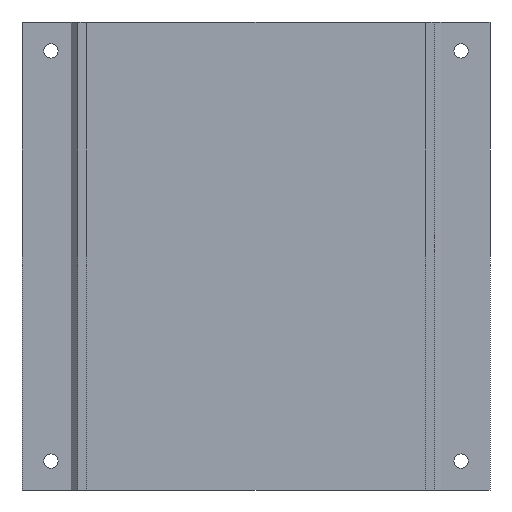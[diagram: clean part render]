
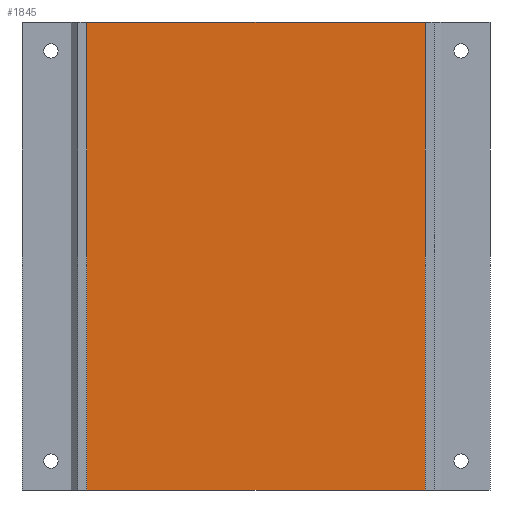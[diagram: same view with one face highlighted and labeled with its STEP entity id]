
A CAD part, front view. The second image highlights one B-rep face of the part: STEP entity #1845.
In plain terms, the highlighted planar face has unit normal (0, -1, 0).
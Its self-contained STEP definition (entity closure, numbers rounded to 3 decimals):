
#19 = ORIENTED_EDGE ( 'NONE', *, *, #1592, .T. ) ;
#56 = EDGE_LOOP ( 'NONE', ( #19, #1054 ) ) ;
#78 = ORIENTED_EDGE ( 'NONE', *, *, #224, .T. ) ;
#121 = EDGE_CURVE ( 'NONE', #126, #141, #1044, .T. ) ;
#123 = EDGE_CURVE ( 'NONE', #1867, #1811, #1060, .T. ) ;
#126 = VERTEX_POINT ( 'NONE', #1069 ) ;
#141 = VERTEX_POINT ( 'NONE', #1175 ) ;
#150 = ORIENTED_EDGE ( 'NONE', *, *, #121, .T. ) ;
#194 = EDGE_LOOP ( 'NONE', ( #150, #78 ) ) ;
#216 = ORIENTED_EDGE ( 'NONE', *, *, #286, .T. ) ;
#224 = EDGE_CURVE ( 'NONE', #141, #126, #1648, .T. ) ;
#241 = VERTEX_POINT ( 'NONE', #446 ) ;
#263 = VERTEX_POINT ( 'NONE', #511 ) ;
#270 = EDGE_CURVE ( 'NONE', #1073, #241, #524, .T. ) ;
#275 = VERTEX_POINT ( 'NONE', #529 ) ;
#286 = EDGE_CURVE ( 'NONE', #263, #634, #571, .T. ) ;
#288 = EDGE_CURVE ( 'NONE', #634, #263, #579, .T. ) ;
#309 = EDGE_CURVE ( 'NONE', #275, #1073, #678, .T. ) ;
#325 = ORIENTED_EDGE ( 'NONE', *, *, #270, .T. ) ;
#424 = ORIENTED_EDGE ( 'NONE', *, *, #288, .T. ) ;
#446 = CARTESIAN_POINT ( 'NONE',  ( 48.5, -12., -52.5 ) ) ;
#511 = CARTESIAN_POINT ( 'NONE',  ( 46., -12., -48.25 ) ) ;
#524 = LINE ( 'NONE', #525, #526 ) ;
#525 = CARTESIAN_POINT ( 'NONE',  ( -48.5, -12., -52.5 ) ) ;
#526 = VECTOR ( 'NONE', #527, 1000. ) ;
#527 = DIRECTION ( 'NONE',  ( 1., 0., 0. ) ) ;
#529 = CARTESIAN_POINT ( 'NONE',  ( -48.5, -12., 52.5 ) ) ;
#530 = LINE ( 'NONE', #531, #532 ) ;
#531 = CARTESIAN_POINT ( 'NONE',  ( 0., -12., 52.5 ) ) ;
#532 = VECTOR ( 'NONE', #533, 1000. ) ;
#533 = DIRECTION ( 'NONE',  ( 1., 0., 0. ) ) ;
#571 = CIRCLE ( 'NONE', #572, 2.25 ) ;
#572 = AXIS2_PLACEMENT_3D ( 'NONE', #573, #574, #575 ) ;
#573 = CARTESIAN_POINT ( 'NONE',  ( 46., -12., -46. ) ) ;
#574 = DIRECTION ( 'NONE',  ( 0., 1., 0. ) ) ;
#575 = DIRECTION ( 'NONE',  ( -1., 0., 0. ) ) ;
#579 = CIRCLE ( 'NONE', #580, 2.25 ) ;
#580 = AXIS2_PLACEMENT_3D ( 'NONE', #581, #582, #583 ) ;
#581 = CARTESIAN_POINT ( 'NONE',  ( 46., -12., -46. ) ) ;
#582 = DIRECTION ( 'NONE',  ( 0., 1., 0. ) ) ;
#583 = DIRECTION ( 'NONE',  ( -1., 0., 0. ) ) ;
#626 = CARTESIAN_POINT ( 'NONE',  ( -46., -12., 48.25 ) ) ;
#634 = VERTEX_POINT ( 'NONE', #948 ) ;
#678 = LINE ( 'NONE', #679, #680 ) ;
#679 = CARTESIAN_POINT ( 'NONE',  ( -48.5, -12., 52.5 ) ) ;
#680 = VECTOR ( 'NONE', #681, 1000. ) ;
#681 = DIRECTION ( 'NONE',  ( 0., 0., -1. ) ) ;
#838 = EDGE_LOOP ( 'NONE', ( #325, #1925, #1823, #1767 ) ) ;
#930 = FACE_BOUND ( 'NONE', #1828, .T. ) ;
#931 = FACE_BOUND ( 'NONE', #940, .T. ) ;
#932 = FACE_BOUND ( 'NONE', #194, .T. ) ;
#933 = FACE_BOUND ( 'NONE', #56, .T. ) ;
#934 = FACE_OUTER_BOUND ( 'NONE', #838, .T. ) ;
#935 = PLANE ( 'NONE',  #936 ) ;
#936 = AXIS2_PLACEMENT_3D ( 'NONE', #937, #941, #942 ) ;
#937 = CARTESIAN_POINT ( 'NONE',  ( -48.5, -12., 52.5 ) ) ;
#940 = EDGE_LOOP ( 'NONE', ( #424, #216 ) ) ;
#941 = DIRECTION ( 'NONE',  ( 0., 1., 0. ) ) ;
#942 = DIRECTION ( 'NONE',  ( -1., 0., 0. ) ) ;
#948 = CARTESIAN_POINT ( 'NONE',  ( 46., -12., -43.75 ) ) ;
#1044 = CIRCLE ( 'NONE', #1045, 2.25 ) ;
#1045 = AXIS2_PLACEMENT_3D ( 'NONE', #1046, #1047, #1048 ) ;
#1046 = CARTESIAN_POINT ( 'NONE',  ( 46., -12., 46. ) ) ;
#1047 = DIRECTION ( 'NONE',  ( 0., 1., 0. ) ) ;
#1048 = DIRECTION ( 'NONE',  ( -1., 0., 0. ) ) ;
#1054 = ORIENTED_EDGE ( 'NONE', *, *, #123, .T. ) ;
#1060 = CIRCLE ( 'NONE', #1061, 2.25 ) ;
#1061 = AXIS2_PLACEMENT_3D ( 'NONE', #1062, #1063, #1064 ) ;
#1062 = CARTESIAN_POINT ( 'NONE',  ( -46., -12., 46. ) ) ;
#1063 = DIRECTION ( 'NONE',  ( 0., 1., 0. ) ) ;
#1064 = DIRECTION ( 'NONE',  ( -1., 0., 0. ) ) ;
#1069 = CARTESIAN_POINT ( 'NONE',  ( 46., -12., 48.25 ) ) ;
#1073 = VERTEX_POINT ( 'NONE', #1158 ) ;
#1079 = CARTESIAN_POINT ( 'NONE',  ( -46., -12., 43.75 ) ) ;
#1133 = ORIENTED_EDGE ( 'NONE', *, *, #1920, .T. ) ;
#1139 = CARTESIAN_POINT ( 'NONE',  ( 48.5, -12., 52.5 ) ) ;
#1141 = CARTESIAN_POINT ( 'NONE',  ( -46., -12., -43.75 ) ) ;
#1158 = CARTESIAN_POINT ( 'NONE',  ( -48.5, -12., -52.5 ) ) ;
#1175 = CARTESIAN_POINT ( 'NONE',  ( 46., -12., 43.75 ) ) ;
#1260 = LINE ( 'NONE', #1261, #1262 ) ;
#1261 = CARTESIAN_POINT ( 'NONE',  ( 48.5, -12., 52.5 ) ) ;
#1262 = VECTOR ( 'NONE', #1263, 1000. ) ;
#1263 = DIRECTION ( 'NONE',  ( 0., 0., -1. ) ) ;
#1298 = CARTESIAN_POINT ( 'NONE',  ( -46., -12., -48.25 ) ) ;
#1441 = CIRCLE ( 'NONE', #1442, 2.25 ) ;
#1442 = AXIS2_PLACEMENT_3D ( 'NONE', #1443, #1444, #1445 ) ;
#1443 = CARTESIAN_POINT ( 'NONE',  ( -46., -12., -46. ) ) ;
#1444 = DIRECTION ( 'NONE',  ( 0., 1., 0. ) ) ;
#1445 = DIRECTION ( 'NONE',  ( -1., 0., 0. ) ) ;
#1466 = CIRCLE ( 'NONE', #1467, 2.25 ) ;
#1467 = AXIS2_PLACEMENT_3D ( 'NONE', #1468, #1470, #1471 ) ;
#1468 = CARTESIAN_POINT ( 'NONE',  ( -46., -12., 46. ) ) ;
#1470 = DIRECTION ( 'NONE',  ( 0., 1., 0. ) ) ;
#1471 = DIRECTION ( 'NONE',  ( -1., 0., 0. ) ) ;
#1547 = CIRCLE ( 'NONE', #1548, 2.25 ) ;
#1548 = AXIS2_PLACEMENT_3D ( 'NONE', #1549, #1550, #1551 ) ;
#1549 = CARTESIAN_POINT ( 'NONE',  ( -46., -12., -46. ) ) ;
#1550 = DIRECTION ( 'NONE',  ( 0., 1., 0. ) ) ;
#1551 = DIRECTION ( 'NONE',  ( -1., 0., 0. ) ) ;
#1592 = EDGE_CURVE ( 'NONE', #1811, #1867, #1466, .T. ) ;
#1648 = CIRCLE ( 'NONE', #1649, 2.25 ) ;
#1649 = AXIS2_PLACEMENT_3D ( 'NONE', #1650, #1651, #1656 ) ;
#1650 = CARTESIAN_POINT ( 'NONE',  ( 46., -12., 46. ) ) ;
#1651 = DIRECTION ( 'NONE',  ( 0., 1., 0. ) ) ;
#1656 = DIRECTION ( 'NONE',  ( -1., 0., 0. ) ) ;
#1708 = EDGE_CURVE ( 'NONE', #1885, #1898, #1547, .T. ) ;
#1767 = ORIENTED_EDGE ( 'NONE', *, *, #309, .T. ) ;
#1785 = ORIENTED_EDGE ( 'NONE', *, *, #1708, .T. ) ;
#1802 = EDGE_CURVE ( 'NONE', #275, #1882, #530, .T. ) ;
#1811 = VERTEX_POINT ( 'NONE', #626 ) ;
#1823 = ORIENTED_EDGE ( 'NONE', *, *, #1802, .F. ) ;
#1828 = EDGE_LOOP ( 'NONE', ( #1785, #1133 ) ) ;
#1845 = ADVANCED_FACE ( 'NONE', ( #930, #931, #932, #933, #934 ), #935, .F. ) ;
#1867 = VERTEX_POINT ( 'NONE', #1079 ) ;
#1882 = VERTEX_POINT ( 'NONE', #1139 ) ;
#1885 = VERTEX_POINT ( 'NONE', #1141 ) ;
#1897 = EDGE_CURVE ( 'NONE', #1882, #241, #1260, .T. ) ;
#1898 = VERTEX_POINT ( 'NONE', #1298 ) ;
#1920 = EDGE_CURVE ( 'NONE', #1898, #1885, #1441, .T. ) ;
#1925 = ORIENTED_EDGE ( 'NONE', *, *, #1897, .F. ) ;
